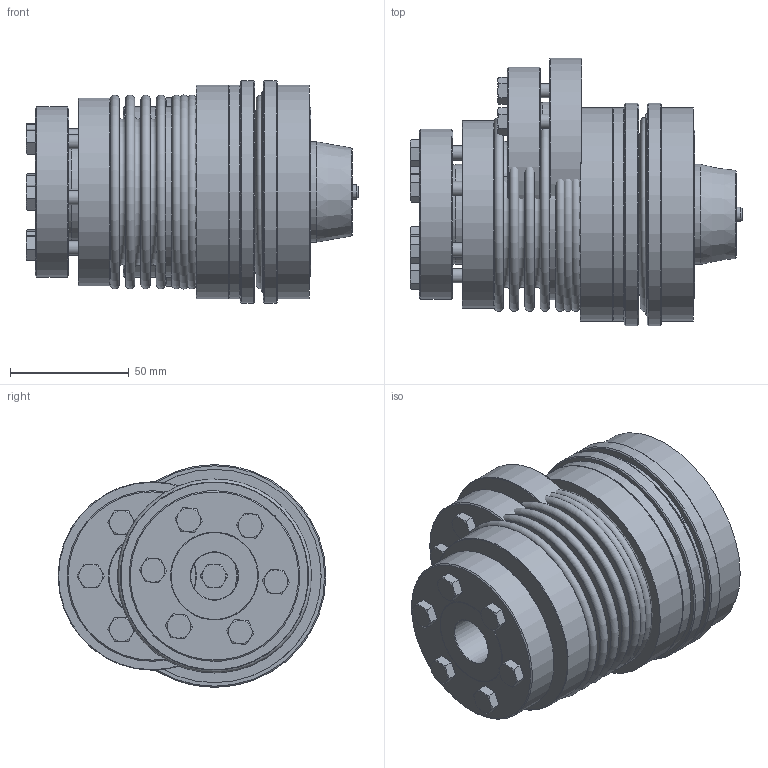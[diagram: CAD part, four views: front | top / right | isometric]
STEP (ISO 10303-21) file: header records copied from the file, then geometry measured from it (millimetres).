
FILE_DESCRIPTION( ( 'Unknown' ), '1' );
FILE_NAME( 'C:/Dokumente und Einstellungen/SKarpstein/Desktop/Korrigierte 3D Modelle/KBK-B-AI/KBK-BAI-150-120.stp', 'Unknown', ( 'Unknown' ), ( 'Unknown' ), 'XStep 1.0', 'Unknown', ' ' );
FILE_SCHEMA( ( 'automotive_design' ) );
Length unit declared in the file: millimetre
Products named in the file (12): Assem1; Assem2; BA80-150_Standard; Hex Screw GradeC_DIN_ISO 4018 - M6 x 30-NN; DR80-150_Standard; KBK L-I-80 Grundkörper_0; Konusbuchse 80_0; Stellring 80; Druckring 80; din_en_24017_m6x25; Flansch BK150; BL80-150_Standard_3
Bounding box: 140.05 x 112.93 x 94 mm (x, y, z)
Volume: 766399.2 mm3; surface area: 380857.6 mm2
Topology: 38 solids, 38 shells, 803 faces, 1675 edges, 1067 vertices
Faces by surface type: plane 351, cone 230, cylinder 167, torus 55
Full cylindrical faces by diameter (mm): 3.242 x6, 4.917 x18, 5 x26, 5.2 x6, 6 x20, 6.6 x30, 8.8 x7, 20 x3, 30 x4, 37.5 x2, 40 x4, 41 x2, 42.29 x3, 48 x2, 52 x2, 59.5 x2, 62 x4, 70 x2, 70.7 x4, 71.9 x4, 72 x3, 79.5 x3, 85 x2, 87 x2, 90 x4, 94 x2
Entity records: 6385 total; most frequent: CARTESIAN_POINT 1340, DIRECTION 1054, ORIENTED_EDGE 666, AXIS2_PLACEMENT_3D 499, EDGE_LOOP 472, EDGE_CURVE 333, FACE_OUTER_BOUND 328, VERTEX_POINT 285
